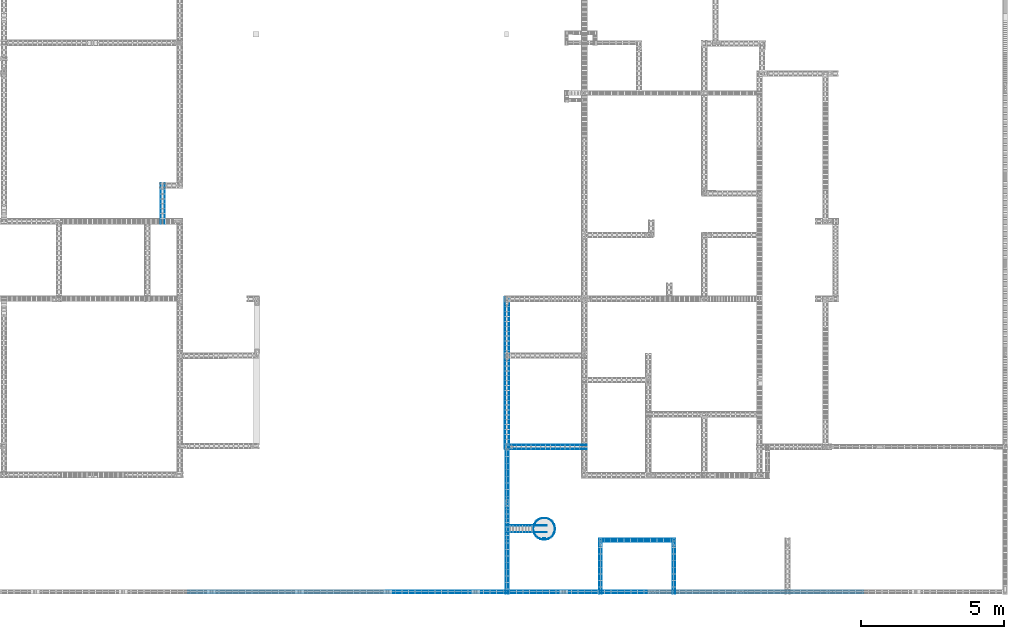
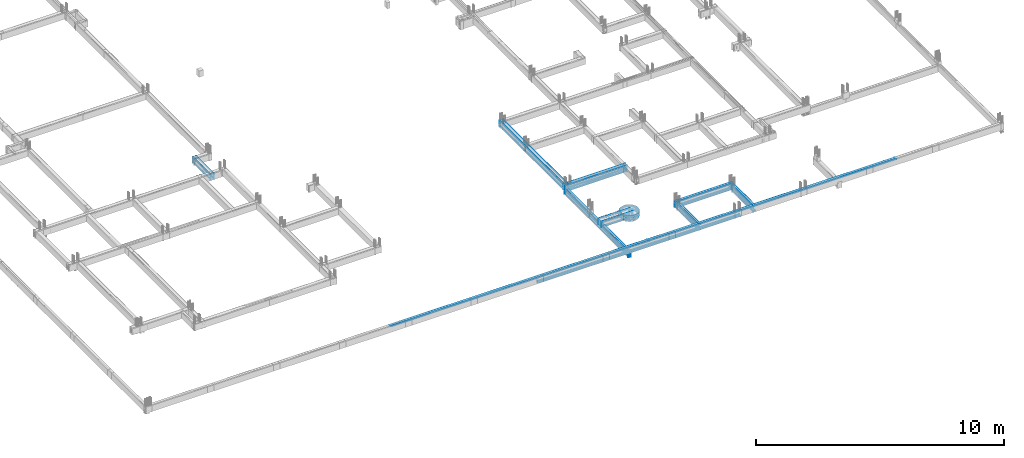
# One storey, part 8 of 150: 40 reinforcing bars.
"""IFC4 building model written with IfcOpenShell, lengths in centimetres."""

from ifc_helpers import new_model, entity, si_unit, derived_unit, frame, origin_with_axes, place, context, project, spatial, source, transform, mapped, element, save


model = new_model("IFC4")

# Units and contexts
model_context = context("Model", 3, precision=1e-05, world=origin_with_axes(), identifier="Body")
ifc_project = project(units=[si_unit("LENGTHUNIT", "METRE", prefix="CENTI"), si_unit("VOLUMEUNIT", "CUBIC_METRE"), si_unit("AREAUNIT", "SQUARE_METRE"), si_unit("POWERUNIT", "WATT"), si_unit("LUMINOUSFLUXUNIT", "LUMEN"), si_unit("ELECTRICCURRENTUNIT", "AMPERE"), si_unit("PRESSUREUNIT", "PASCAL", prefix="KILO"), si_unit("MASSUNIT", "GRAM", prefix="KILO"), si_unit("PLANEANGLEUNIT", "RADIAN"), derived_unit("VOLUMETRICFLOWRATEUNIT", [(si_unit("LENGTHUNIT", "METRE"), 3), (si_unit("TIMEUNIT", "SECOND"), -1)])], contexts=[model_context])

# Site, building, storey
site_placement = place(None, frame((-4000.0, 0.0, 0.0), z_axis=(0.0, 0.0, 1.0), x_axis=(1.0, 0.0, 0.0)))
site = spatial("IfcSite", under=ifc_project, at=site_placement, Name="PADRÃO")
building_placement = place(site_placement, frame((0.0, 0.0, -14.0)))
building = spatial("IfcBuilding", under=site, at=building_placement, Name="CRECHE PRÉ-ESCOLA TIPO 2")
placement = place(building_placement, origin_with_axes())
storey_placement = place(placement, frame((0.0, 0.0, 30.0), z_axis=(0.0, 0.0, 1.0), x_axis=(1.0, 0.0, 0.0)))
storey = spatial("IfcBuildingStorey", under=building, at=storey_placement, Name="VIGA BALDRAME", CompositionType="ELEMENT", Elevation=16.0)

# Reinforcing bars
shared_shape = source(origin_with_axes(), model_context, "Body", "AdvancedSweptSolid", [
    entity("IfcSweptDiskSolid", entity("IfcCompositeCurve", [entity("IfcCompositeCurveSegment", "CONTINUOUS", True, entity("IfcPolyline", [entity("IfcCartesianPoint", [69.8431457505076, -40.5784271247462, 0.0]), entity("IfcCartesianPoint", [74.0857864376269, -36.3357864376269, 0.0])])), entity("IfcCompositeCurveSegment", "CONTINUOUS", True, entity("IfcPolyline", [entity("IfcCartesianPoint", [74.0857864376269, -36.3357864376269, 0.0]), entity("IfcCartesianPoint", [75.5, -37.75, 0.0])])), entity("IfcCompositeCurveSegment", "CONTINUOUS", True, entity("IfcPolyline", [entity("IfcCartesianPoint", [75.5, -37.75, 0.0]), entity("IfcCartesianPoint", [75.2023299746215, -42.4813295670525, 0.01])])), entity("IfcCompositeCurveSegment", "CONTINUOUS", True, entity("IfcPolyline", [entity("IfcCartesianPoint", [75.2023299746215, -42.4813295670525, 0.01]), entity("IfcCartesianPoint", [74.3140143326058, -47.1380432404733, 0.02])])), entity("IfcCompositeCurveSegment", "CONTINUOUS", True, entity("IfcPolyline", [entity("IfcCartesianPoint", [74.3140143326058, -47.1380432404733, 0.02]), entity("IfcCartesianPoint", [72.8490623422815, -51.6467018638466, 0.03])])), entity("IfcCompositeCurveSegment", "CONTINUOUS", True, entity("IfcPolyline", [entity("IfcCartesianPoint", [72.8490623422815, -51.6467018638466, 0.03]), entity("IfcCartesianPoint", [70.8305771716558, -55.9362011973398, 0.04])])), entity("IfcCompositeCurveSegment", "CONTINUOUS", True, entity("IfcPolyline", [entity("IfcCartesianPoint", [70.8305771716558, -55.9362011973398, 0.04]), entity("IfcCartesianPoint", [68.2903915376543, -59.9388932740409, 0.05])])), entity("IfcCompositeCurveSegment", "CONTINUOUS", True, entity("IfcPolyline", [entity("IfcCartesianPoint", [68.2903915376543, -59.9388932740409, 0.05]), entity("IfcCartesianPoint", [65.2685656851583, -63.591653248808, 0.06])])), entity("IfcCompositeCurveSegment", "CONTINUOUS", True, entity("IfcPolyline", [entity("IfcCartesianPoint", [65.2685656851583, -63.591653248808, 0.06]), entity("IfcCartesianPoint", [61.812755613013, -66.836874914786, 0.07])])), entity("IfcCompositeCurveSegment", "CONTINUOUS", True, entity("IfcPolyline", [entity("IfcCartesianPoint", [61.812755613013, -66.836874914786, 0.07]), entity("IfcCartesianPoint", [57.9774615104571, -69.6233791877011, 0.08])])), entity("IfcCompositeCurveSegment", "CONTINUOUS", True, entity("IfcPolyline", [entity("IfcCartesianPoint", [57.9774615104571, -69.6233791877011, 0.08]), entity("IfcCartesianPoint", [53.8231682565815, -71.9072212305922, 0.09])])), entity("IfcCompositeCurveSegment", "CONTINUOUS", True, entity("IfcPolyline", [entity("IfcCartesianPoint", [53.8231682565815, -71.9072212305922, 0.09]), entity("IfcCartesianPoint", [49.4153915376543, -73.652383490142, 0.1])])), entity("IfcCompositeCurveSegment", "CONTINUOUS", True, entity("IfcPolyline", [entity("IfcCartesianPoint", [49.4153915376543, -73.652383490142, 0.1]), entity("IfcCartesianPoint", [44.8236446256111, -74.831343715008, 0.11])])), entity("IfcCompositeCurveSegment", "CONTINUOUS", True, entity("IfcPolyline", [entity("IfcCartesianPoint", [44.8236446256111, -74.831343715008, 0.11]), entity("IfcCartesianPoint", [40.1203421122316, -75.4255089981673, 0.12])])), entity("IfcCompositeCurveSegment", "CONTINUOUS", True, entity("IfcPolyline", [entity("IfcCartesianPoint", [40.1203421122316, -75.4255089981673, 0.12]), entity("IfcCartesianPoint", [35.3796578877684, -75.4255089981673, 0.13])])), entity("IfcCompositeCurveSegment", "CONTINUOUS", True, entity("IfcPolyline", [entity("IfcCartesianPoint", [35.3796578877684, -75.4255089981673, 0.13]), entity("IfcCartesianPoint", [30.6763553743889, -74.831343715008, 0.14])])), entity("IfcCompositeCurveSegment", "CONTINUOUS", True, entity("IfcPolyline", [entity("IfcCartesianPoint", [30.6763553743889, -74.831343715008, 0.14]), entity("IfcCartesianPoint", [26.0846084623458, -73.6523834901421, 0.15])])), entity("IfcCompositeCurveSegment", "CONTINUOUS", True, entity("IfcPolyline", [entity("IfcCartesianPoint", [26.0846084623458, -73.6523834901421, 0.15]), entity("IfcCartesianPoint", [21.6768317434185, -71.9072212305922, 0.16])])), entity("IfcCompositeCurveSegment", "CONTINUOUS", True, entity("IfcPolyline", [entity("IfcCartesianPoint", [21.6768317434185, -71.9072212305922, 0.16]), entity("IfcCartesianPoint", [17.5225384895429, -69.6233791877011, 0.17])])), entity("IfcCompositeCurveSegment", "CONTINUOUS", True, entity("IfcPolyline", [entity("IfcCartesianPoint", [17.5225384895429, -69.6233791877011, 0.17]), entity("IfcCartesianPoint", [13.687244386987, -66.8368749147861, 0.18])])), entity("IfcCompositeCurveSegment", "CONTINUOUS", True, entity("IfcPolyline", [entity("IfcCartesianPoint", [13.687244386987, -66.8368749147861, 0.18]), entity("IfcCartesianPoint", [10.2314343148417, -63.591653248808, 0.19])])), entity("IfcCompositeCurveSegment", "CONTINUOUS", True, entity("IfcPolyline", [entity("IfcCartesianPoint", [10.2314343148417, -63.591653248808, 0.19]), entity("IfcCartesianPoint", [7.20960846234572, -59.9388932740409, 0.2])])), entity("IfcCompositeCurveSegment", "CONTINUOUS", True, entity("IfcPolyline", [entity("IfcCartesianPoint", [7.20960846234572, -59.9388932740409, 0.2]), entity("IfcCartesianPoint", [4.66942282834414, -55.9362011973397, 0.21])])), entity("IfcCompositeCurveSegment", "CONTINUOUS", True, entity("IfcPolyline", [entity("IfcCartesianPoint", [4.66942282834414, -55.9362011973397, 0.21]), entity("IfcCartesianPoint", [2.6509376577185, -51.6467018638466, 0.22])])), entity("IfcCompositeCurveSegment", "CONTINUOUS", True, entity("IfcPolyline", [entity("IfcCartesianPoint", [2.6509376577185, -51.6467018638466, 0.22]), entity("IfcCartesianPoint", [1.18598566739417, -47.1380432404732, 0.23])])), entity("IfcCompositeCurveSegment", "CONTINUOUS", True, entity("IfcPolyline", [entity("IfcCartesianPoint", [1.18598566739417, -47.1380432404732, 0.23]), entity("IfcCartesianPoint", [0.297670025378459, -42.4813295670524, 0.24])])), entity("IfcCompositeCurveSegment", "CONTINUOUS", True, entity("IfcPolyline", [entity("IfcCartesianPoint", [0.297670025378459, -42.4813295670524, 0.24]), entity("IfcCartesianPoint", [0.0, -37.75, 0.25])])), entity("IfcCompositeCurveSegment", "CONTINUOUS", True, entity("IfcPolyline", [entity("IfcCartesianPoint", [0.0, -37.75, 0.25]), entity("IfcCartesianPoint", [0.297670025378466, -33.0186704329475, 0.26])])), entity("IfcCompositeCurveSegment", "CONTINUOUS", True, entity("IfcPolyline", [entity("IfcCartesianPoint", [0.297670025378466, -33.0186704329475, 0.26]), entity("IfcCartesianPoint", [1.18598566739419, -28.3619567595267, 0.27])])), entity("IfcCompositeCurveSegment", "CONTINUOUS", True, entity("IfcPolyline", [entity("IfcCartesianPoint", [1.18598566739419, -28.3619567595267, 0.27]), entity("IfcCartesianPoint", [2.65093765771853, -23.8532981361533, 0.28])])), entity("IfcCompositeCurveSegment", "CONTINUOUS", True, entity("IfcPolyline", [entity("IfcCartesianPoint", [2.65093765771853, -23.8532981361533, 0.28]), entity("IfcCartesianPoint", [4.66942282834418, -19.5637988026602, 0.29])])), entity("IfcCompositeCurveSegment", "CONTINUOUS", True, entity("IfcPolyline", [entity("IfcCartesianPoint", [4.66942282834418, -19.5637988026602, 0.29]), entity("IfcCartesianPoint", [7.20960846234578, -15.5611067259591, 0.3])])), entity("IfcCompositeCurveSegment", "CONTINUOUS", True, entity("IfcPolyline", [entity("IfcCartesianPoint", [7.20960846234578, -15.5611067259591, 0.3]), entity("IfcCartesianPoint", [10.2314343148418, -11.9083467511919, 0.31])])), entity("IfcCompositeCurveSegment", "CONTINUOUS", True, entity("IfcPolyline", [entity("IfcCartesianPoint", [10.2314343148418, -11.9083467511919, 0.31]), entity("IfcCartesianPoint", [13.687244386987, -8.66312508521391, 0.32])])), entity("IfcCompositeCurveSegment", "CONTINUOUS", True, entity("IfcPolyline", [entity("IfcCartesianPoint", [13.687244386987, -8.66312508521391, 0.32]), entity("IfcCartesianPoint", [17.5225384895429, -5.87662081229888, 0.33])])), entity("IfcCompositeCurveSegment", "CONTINUOUS", True, entity("IfcPolyline", [entity("IfcCartesianPoint", [17.5225384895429, -5.87662081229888, 0.33]), entity("IfcCartesianPoint", [21.6768317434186, -3.59277876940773, 0.34])])), entity("IfcCompositeCurveSegment", "CONTINUOUS", True, entity("IfcPolyline", [entity("IfcCartesianPoint", [21.6768317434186, -3.59277876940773, 0.34]), entity("IfcCartesianPoint", [26.0846084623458, -1.84761650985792, 0.35])])), entity("IfcCompositeCurveSegment", "CONTINUOUS", True, entity("IfcPolyline", [entity("IfcCartesianPoint", [26.0846084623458, -1.84761650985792, 0.35]), entity("IfcCartesianPoint", [30.676355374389, -0.668656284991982, 0.36])])), entity("IfcCompositeCurveSegment", "CONTINUOUS", True, entity("IfcPolyline", [entity("IfcCartesianPoint", [30.676355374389, -0.668656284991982, 0.36]), entity("IfcCartesianPoint", [35.3796578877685, -0.07449100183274, 0.37])])), entity("IfcCompositeCurveSegment", "CONTINUOUS", True, entity("IfcPolyline", [entity("IfcCartesianPoint", [35.3796578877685, -0.07449100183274, 0.37]), entity("IfcCartesianPoint", [40.1203421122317, -0.074491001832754, 0.38])])), entity("IfcCompositeCurveSegment", "CONTINUOUS", True, entity("IfcPolyline", [entity("IfcCartesianPoint", [40.1203421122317, -0.074491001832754, 0.38]), entity("IfcCartesianPoint", [44.8236446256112, -0.668656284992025, 0.39])])), entity("IfcCompositeCurveSegment", "CONTINUOUS", True, entity("IfcPolyline", [entity("IfcCartesianPoint", [44.8236446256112, -0.668656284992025, 0.39]), entity("IfcCartesianPoint", [49.4153915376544, -1.84761650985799, 0.4])])), entity("IfcCompositeCurveSegment", "CONTINUOUS", True, entity("IfcPolyline", [entity("IfcCartesianPoint", [49.4153915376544, -1.84761650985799, 0.4]), entity("IfcCartesianPoint", [53.8231682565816, -3.59277876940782, 0.41])])), entity("IfcCompositeCurveSegment", "CONTINUOUS", True, entity("IfcPolyline", [entity("IfcCartesianPoint", [53.8231682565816, -3.59277876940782, 0.41]), entity("IfcCartesianPoint", [57.9774615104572, -5.87662081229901, 0.42])])), entity("IfcCompositeCurveSegment", "CONTINUOUS", True, entity("IfcPolyline", [entity("IfcCartesianPoint", [57.9774615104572, -5.87662081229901, 0.42]), entity("IfcCartesianPoint", [61.8127556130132, -8.66312508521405, 0.43])])), entity("IfcCompositeCurveSegment", "CONTINUOUS", True, entity("IfcPolyline", [entity("IfcCartesianPoint", [61.8127556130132, -8.66312508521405, 0.43]), entity("IfcCartesianPoint", [65.2685656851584, -11.9083467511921, 0.44])])), entity("IfcCompositeCurveSegment", "CONTINUOUS", True, entity("IfcPolyline", [entity("IfcCartesianPoint", [65.2685656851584, -11.9083467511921, 0.44]), entity("IfcCartesianPoint", [68.2903915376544, -15.5611067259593, 0.45])])), entity("IfcCompositeCurveSegment", "CONTINUOUS", True, entity("IfcPolyline", [entity("IfcCartesianPoint", [68.2903915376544, -15.5611067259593, 0.45]), entity("IfcCartesianPoint", [70.8305771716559, -19.5637988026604, 0.46])])), entity("IfcCompositeCurveSegment", "CONTINUOUS", True, entity("IfcPolyline", [entity("IfcCartesianPoint", [70.8305771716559, -19.5637988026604, 0.46]), entity("IfcCartesianPoint", [72.8490623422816, -23.8532981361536, 0.47])])), entity("IfcCompositeCurveSegment", "CONTINUOUS", True, entity("IfcPolyline", [entity("IfcCartesianPoint", [72.8490623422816, -23.8532981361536, 0.47]), entity("IfcCartesianPoint", [74.3140143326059, -28.3619567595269, 0.48])])), entity("IfcCompositeCurveSegment", "CONTINUOUS", True, entity("IfcPolyline", [entity("IfcCartesianPoint", [74.3140143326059, -28.3619567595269, 0.48]), entity("IfcCartesianPoint", [75.2023299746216, -33.0186704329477, 0.49])])), entity("IfcCompositeCurveSegment", "CONTINUOUS", True, entity("IfcPolyline", [entity("IfcCartesianPoint", [75.2023299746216, -33.0186704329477, 0.49]), entity("IfcCartesianPoint", [75.5, -37.75, 0.5])])), entity("IfcCompositeCurveSegment", "CONTINUOUS", True, entity("IfcPolyline", [entity("IfcCartesianPoint", [75.5, -37.75, 0.5]), entity("IfcCartesianPoint", [74.0857864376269, -39.1642135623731, 0.5])])), entity("IfcCompositeCurveSegment", "CONTINUOUS", True, entity("IfcPolyline", [entity("IfcCartesianPoint", [74.0857864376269, -39.1642135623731, 0.5]), entity("IfcCartesianPoint", [69.8431457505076, -34.9215728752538, 0.5])]))], False), 0.25),
])
for number, where, z_axis, x_axis, name in (
    (1, (2423.03, 267.14, -7.5), (0.0, 0.0, 1.0), (0.0, -1.0, 0.0), "P151 - Estribo"),
    (2, (2423.03, 267.14, -22.5), (0.0, 0.0, 1.0), (0.0, -1.0, 0.0), "P151 - Estribo"),
):
    element("IfcReinforcingBar", number, at=place(storey_placement, frame(where, z_axis=z_axis, x_axis=x_axis)), inside=storey, Name=name, BarLength=0.0, CrossSectionArea=1.9634954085e-05, NominalDiameter=0.5, PredefinedType="MAIN", context=model_context, shape_type="MappedRepresentation", body=[
        mapped(shared_shape, transform((0.0, 0.0, 0.0), scale=1.0)),
    ])
for number, where, z_axis, x_axis, name in (
    (3, (2391.74, 507.92, -26.7), (0.0, 0.0, 1.0), (1.0, 0.0, 0.0), "V151 - Longitudinal inferior"),
    (4, (2391.74, 522.12, -26.7), (0.0, 0.0, 1.0), (1.0, 0.0, 0.0), "V151 - Longitudinal inferior"),
):
    element("IfcReinforcingBar", number, at=place(storey_placement, frame(where, z_axis=z_axis, x_axis=x_axis)), inside=storey, Name=name, BarLength=0.0, CrossSectionArea=5.0265482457e-05, NominalDiameter=0.8, PredefinedType="MAIN", context=model_context, shape_type="AdvancedSweptSolid", body=[
        entity("IfcSweptDiskSolid", entity("IfcCompositeCurve", [entity("IfcCompositeCurveSegment", "CONTINUOUS", True, entity("IfcPolyline", [entity("IfcCartesianPoint", [-142.26, 0.0, -0.4]), entity("IfcCartesianPoint", [142.26, 0.0, -0.4])]))], False), 0.4),
    ])
for number, where, z_axis, x_axis, name in (
    (5, (2391.74, 508.02, -2.49531217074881), (0.0, 0.0, 1.0), (1.0, 0.0, 0.0), "V151 - Longitudinal superior"),
    (6, (2391.74, 522.02, -2.49531217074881), (0.0, 0.0, 1.0), (1.0, 0.0, 0.0), "V151 - Longitudinal superior"),
):
    element("IfcReinforcingBar", number, at=place(storey_placement, frame(where, z_axis=z_axis, x_axis=x_axis)), inside=storey, Name=name, BarLength=0.0, CrossSectionArea=7.853981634e-05, NominalDiameter=1.0, PredefinedType="MAIN", context=model_context, shape_type="AdvancedSweptSolid", body=[
        entity("IfcSweptDiskSolid", entity("IfcCompositeCurve", [entity("IfcCompositeCurveSegment", "CONTINUOUS", True, entity("IfcPolyline", [entity("IfcCartesianPoint", [-141.76, 0.0, -10.5046878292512]), entity("IfcCartesianPoint", [-141.76, 0.0, -0.504687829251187])])), entity("IfcCompositeCurveSegment", "CONTINUOUS", True, entity("IfcPolyline", [entity("IfcCartesianPoint", [-141.76, 0.0, -0.504687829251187]), entity("IfcCartesianPoint", [141.76, 0.0, -0.504687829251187])])), entity("IfcCompositeCurveSegment", "CONTINUOUS", True, entity("IfcPolyline", [entity("IfcCartesianPoint", [141.76, 0.0, -0.504687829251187]), entity("IfcCartesianPoint", [141.76, 0.0, -26.5046878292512])]))], False), 0.5),
    ])
for number, where, z_axis, x_axis, name in (
    (7, (2321.88, 241.39, -26.5), (0.0, 0.0, 1.0), (1.0, 0.0, 0.0), "V156 - Longitudinal inferior"),
    (8, (2321.88, 217.39, -26.5), (0.0, 0.0, 1.0), (1.0, 0.0, 0.0), "V156 - Longitudinal inferior"),
):
    element("IfcReinforcingBar", number, at=place(storey_placement, frame(where, z_axis=z_axis, x_axis=x_axis)), inside=storey, Name=name, BarLength=0.0, CrossSectionArea=7.853981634e-05, NominalDiameter=1.0, PredefinedType="MAIN", context=model_context, shape_type="AdvancedSweptSolid", body=[
        entity("IfcSweptDiskSolid", entity("IfcCompositeCurve", [entity("IfcCompositeCurveSegment", "CONTINUOUS", True, entity("IfcPolyline", [entity("IfcCartesianPoint", [-71.4, 0.0, -0.5]), entity("IfcCartesianPoint", [71.4, 0.0, -0.5])]))], False), 0.5),
    ])
for number, where, z_axis, x_axis, name in (
    (9, (2321.88, 217.39, -2.49531217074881), (0.0, 0.0, 1.0), (1.0, 0.0, 0.0), "V156 - Longitudinal superior"),
    (10, (2321.88, 241.39, -2.49531217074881), (0.0, 0.0, 1.0), (1.0, 0.0, 0.0), "V156 - Longitudinal superior"),
):
    element("IfcReinforcingBar", number, at=place(storey_placement, frame(where, z_axis=z_axis, x_axis=x_axis)), inside=storey, Name=name, BarLength=0.0, CrossSectionArea=7.853981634e-05, NominalDiameter=1.0, PredefinedType="MAIN", context=model_context, shape_type="AdvancedSweptSolid", body=[
        entity("IfcSweptDiskSolid", entity("IfcCompositeCurve", [entity("IfcCompositeCurveSegment", "CONTINUOUS", True, entity("IfcPolyline", [entity("IfcCartesianPoint", [-70.9, 0.0, -26.5046878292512]), entity("IfcCartesianPoint", [-70.9, 0.0, -0.504687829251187])])), entity("IfcCompositeCurveSegment", "CONTINUOUS", True, entity("IfcPolyline", [entity("IfcCartesianPoint", [-70.9, 0.0, -0.504687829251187]), entity("IfcCartesianPoint", [70.9, 0.0, -0.504687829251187])])), entity("IfcCompositeCurveSegment", "CONTINUOUS", True, entity("IfcPolyline", [entity("IfcCartesianPoint", [70.9, 0.0, -0.504687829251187]), entity("IfcCartesianPoint", [70.9, 0.0, -29.1731755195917])]))], False), 0.5),
    ])
for number, where, z_axis, x_axis, name in (
    (11, (2709.475, 194.6, -17.1), (0.0, 0.0, 1.0), (1.0, 0.0, 0.0), "V157 - Longitudinal inferior"),
    (12, (2709.475, 185.4, -17.1), (0.0, 0.0, 1.0), (1.0, 0.0, 0.0), "V157 - Longitudinal inferior"),
):
    element("IfcReinforcingBar", number, at=place(storey_placement, frame(where, z_axis=z_axis, x_axis=x_axis)), inside=storey, Name=name, BarLength=0.0, CrossSectionArea=5.0265482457e-05, NominalDiameter=0.8, PredefinedType="MAIN", context=model_context, shape_type="AdvancedSweptSolid", body=[
        entity("IfcSweptDiskSolid", entity("IfcCompositeCurve", [entity("IfcCompositeCurveSegment", "CONTINUOUS", True, entity("IfcPolyline", [entity("IfcCartesianPoint", [-132.615, 0.0, 0.0]), entity("IfcCartesianPoint", [-132.615, 0.0, -10.0])])), entity("IfcCompositeCurveSegment", "CONTINUOUS", True, entity("IfcPolyline", [entity("IfcCartesianPoint", [-132.615, 0.0, -10.0]), entity("IfcCartesianPoint", [132.615, 0.0, -10.0])])), entity("IfcCompositeCurveSegment", "CONTINUOUS", True, entity("IfcPolyline", [entity("IfcCartesianPoint", [132.615, 0.0, -10.0]), entity("IfcCartesianPoint", [132.615, 0.0, 0.0])]))], False), 0.4),
    ])
for number, where, z_axis, x_axis, name in (
    (13, (2709.475, 185.4, -2.49624973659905), (0.0, 0.0, 1.0), (1.0, 0.0, 0.0), "V157 - Longitudinal superior"),
    (14, (2709.475, 194.6, -2.49624973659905), (0.0, 0.0, 1.0), (1.0, 0.0, 0.0), "V157 - Longitudinal superior"),
):
    element("IfcReinforcingBar", number, at=place(storey_placement, frame(where, z_axis=z_axis, x_axis=x_axis)), inside=storey, Name=name, BarLength=0.0, CrossSectionArea=5.0265482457e-05, NominalDiameter=0.8, PredefinedType="MAIN", context=model_context, shape_type="AdvancedSweptSolid", body=[
        entity("IfcSweptDiskSolid", entity("IfcCompositeCurve", [entity("IfcCompositeCurveSegment", "CONTINUOUS", True, entity("IfcPolyline", [entity("IfcCartesianPoint", [-132.615, 0.0, -18.3215550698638]), entity("IfcCartesianPoint", [-132.615, 0.0, -0.403750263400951])])), entity("IfcCompositeCurveSegment", "CONTINUOUS", True, entity("IfcPolyline", [entity("IfcCartesianPoint", [-132.615, 0.0, -0.403750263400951]), entity("IfcCartesianPoint", [132.615, 0.0, -0.403750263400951])])), entity("IfcCompositeCurveSegment", "CONTINUOUS", True, entity("IfcPolyline", [entity("IfcCartesianPoint", [132.615, 0.0, -0.403750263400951]), entity("IfcCartesianPoint", [132.615, 0.0, -18.3215550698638])]))], False), 0.4),
    ])
for number, where, z_axis, x_axis, name in (
    (15, (2303.34292004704, 14.1, -26.7), (0.0, 0.0, 1.0), (1.0, 0.0, 0.0), "V158 - Longitudinal inferior"),
    (16, (2303.34292004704, 4.9, -26.7), (0.0, 0.0, 1.0), (1.0, 0.0, 0.0), "V158 - Longitudinal inferior"),
):
    element("IfcReinforcingBar", number, at=place(storey_placement, frame(where, z_axis=z_axis, x_axis=x_axis)), inside=storey, Name=name, BarLength=0.0, CrossSectionArea=5.0265482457e-05, NominalDiameter=0.8, PredefinedType="MAIN", context=model_context, shape_type="AdvancedSweptSolid", body=[
        entity("IfcSweptDiskSolid", entity("IfcCompositeCurve", [entity("IfcCompositeCurveSegment", "CONTINUOUS", True, entity("IfcPolyline", [entity("IfcCartesianPoint", [-468.842920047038, 0.0, -0.4]), entity("IfcCartesianPoint", [468.842920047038, 0.0, -0.4])]))], False), 0.4),
    ])
for number, where, z_axis, x_axis, name in (
    (17, (1745.5, 14.1, -2.5), (0.0, 0.0, 1.0), (1.0, 0.0, 0.0), "V158 - Longitudinal superior"),
    (18, (1745.5, 4.9, -2.5), (0.0, 0.0, 1.0), (1.0, 0.0, 0.0), "V158 - Longitudinal superior"),
    (19, (2897.5, 14.1, -2.5), (0.0, 0.0, 1.0), (1.0, 0.0, 0.0), "V158 - Longitudinal superior"),
    (20, (2897.5, 4.9, -2.5), (0.0, 0.0, 1.0), (1.0, 0.0, 0.0), "V158 - Longitudinal superior"),
):
    element("IfcReinforcingBar", number, at=place(storey_placement, frame(where, z_axis=z_axis, x_axis=x_axis)), inside=storey, Name=name, BarLength=0.0, CrossSectionArea=5.0265482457e-05, NominalDiameter=0.8, PredefinedType="MAIN", context=model_context, shape_type="AdvancedSweptSolid", body=[
        entity("IfcSweptDiskSolid", entity("IfcCompositeCurve", [entity("IfcCompositeCurveSegment", "CONTINUOUS", True, entity("IfcPolyline", [entity("IfcCartesianPoint", [-600.0, 0.0, -0.4]), entity("IfcCartesianPoint", [600.0, 0.0, -0.4])]))], False), 0.4),
    ])
for number, where, z_axis, x_axis, name in (
    (21, (1048.9, 1362.5, -26.7), (0.0, 0.0, 1.0), (1.0, 0.0, 0.0), "V180 - Longitudinal inferior"),
    (22, (1063.1, 1362.5, -26.7), (0.0, 0.0, 1.0), (1.0, 0.0, 0.0), "V180 - Longitudinal inferior"),
):
    element("IfcReinforcingBar", number, at=place(storey_placement, frame(where, z_axis=z_axis, x_axis=x_axis)), inside=storey, Name=name, BarLength=0.0, CrossSectionArea=5.0265482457e-05, NominalDiameter=0.8, PredefinedType="MAIN", context=model_context, shape_type="AdvancedSweptSolid", body=[
        entity("IfcSweptDiskSolid", entity("IfcCompositeCurve", [entity("IfcCompositeCurveSegment", "CONTINUOUS", True, entity("IfcPolyline", [entity("IfcCartesianPoint", [0.0, -70.5, -0.4]), entity("IfcCartesianPoint", [0.0, 70.5, -0.4])]))], False), 0.4),
    ])
for number, where, z_axis, x_axis, name in (
    (23, (1048.9, 1362.5, -2.49624973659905), (0.0, 0.0, 1.0), (1.0, 0.0, 0.0), "V180 - Longitudinal superior"),
    (24, (1063.1, 1362.5, -2.49624973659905), (0.0, 0.0, 1.0), (1.0, 0.0, 0.0), "V180 - Longitudinal superior"),
):
    element("IfcReinforcingBar", number, at=place(storey_placement, frame(where, z_axis=z_axis, x_axis=x_axis)), inside=storey, Name=name, BarLength=0.0, CrossSectionArea=5.0265482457e-05, NominalDiameter=0.8, PredefinedType="MAIN", context=model_context, shape_type="AdvancedSweptSolid", body=[
        entity("IfcSweptDiskSolid", entity("IfcCompositeCurve", [entity("IfcCompositeCurveSegment", "CONTINUOUS", True, entity("IfcPolyline", [entity("IfcCartesianPoint", [0.0, -70.1, -24.2941566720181]), entity("IfcCartesianPoint", [0.0, -70.1, -0.403750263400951])])), entity("IfcCompositeCurveSegment", "CONTINUOUS", True, entity("IfcPolyline", [entity("IfcCartesianPoint", [0.0, -70.1, -0.403750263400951]), entity("IfcCartesianPoint", [0.0, 70.1, -0.403750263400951])])), entity("IfcCompositeCurveSegment", "CONTINUOUS", True, entity("IfcPolyline", [entity("IfcCartesianPoint", [0.0, 70.1, -0.403750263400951]), entity("IfcCartesianPoint", [0.0, 70.1, -24.2941566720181])]))], False), 0.4),
    ])
for number, where, z_axis, x_axis, name in (
    (25, (2260.58, 261.26, -46.7), (0.0, 0.0, 1.0), (1.0, 0.0, 0.0), "V189 - Longitudinal inferior"),
    (26, (2251.38, 261.26, -46.7), (0.0, 0.0, 1.0), (1.0, 0.0, 0.0), "V189 - Longitudinal inferior"),
):
    element("IfcReinforcingBar", number, at=place(storey_placement, frame(where, z_axis=z_axis, x_axis=x_axis)), inside=storey, Name=name, BarLength=0.0, CrossSectionArea=5.0265482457e-05, NominalDiameter=0.8, PredefinedType="MAIN", context=model_context, shape_type="AdvancedSweptSolid", body=[
        entity("IfcSweptDiskSolid", entity("IfcCompositeCurve", [entity("IfcCompositeCurveSegment", "CONTINUOUS", True, entity("IfcPolyline", [entity("IfcCartesianPoint", [0.0, -257.26, -0.4]), entity("IfcCartesianPoint", [0.0, 257.26, -0.4])]))], False), 0.4),
    ])
for number, where, z_axis, x_axis, name in (
    (27, (2251.38, 261.26, -22.496249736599), (0.0, 0.0, 1.0), (1.0, 0.0, 0.0), "V189 - Longitudinal superior"),
    (28, (2260.58, 261.26, -22.496249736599), (0.0, 0.0, 1.0), (1.0, 0.0, 0.0), "V189 - Longitudinal superior"),
):
    element("IfcReinforcingBar", number, at=place(storey_placement, frame(where, z_axis=z_axis, x_axis=x_axis)), inside=storey, Name=name, BarLength=0.0, CrossSectionArea=5.0265482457e-05, NominalDiameter=0.8, PredefinedType="MAIN", context=model_context, shape_type="AdvancedSweptSolid", body=[
        entity("IfcSweptDiskSolid", entity("IfcCompositeCurve", [entity("IfcCompositeCurveSegment", "CONTINUOUS", True, entity("IfcPolyline", [entity("IfcCartesianPoint", [0.0, -256.86, -26.403750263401]), entity("IfcCartesianPoint", [0.0, -256.86, -0.403750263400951])])), entity("IfcCompositeCurveSegment", "CONTINUOUS", True, entity("IfcPolyline", [entity("IfcCartesianPoint", [0.0, -256.86, -0.403750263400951]), entity("IfcCartesianPoint", [0.0, 256.86, -0.403750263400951])])), entity("IfcCompositeCurveSegment", "CONTINUOUS", True, entity("IfcPolyline", [entity("IfcCartesianPoint", [0.0, 256.86, -0.403750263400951]), entity("IfcCartesianPoint", [0.0, 256.86, -18.3215550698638])]))], False), 0.4),
    ])
reinforcing_bar_1_placement = place(storey_placement, frame((2262.98848467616, 772.514781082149, -26.5), z_axis=(0.0, 0.0, 1.0), x_axis=(1.0, 0.0, 0.0)))
element("IfcReinforcingBar", 29, at=reinforcing_bar_1_placement, inside=storey, Name="V190 - Longitudinal inferior", BarLength=0.0, CrossSectionArea=7.853981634e-05, NominalDiameter=1.0, PredefinedType="MAIN", context=model_context, shape_type="AdvancedSweptSolid", body=[
    entity("IfcSweptDiskSolid", entity("IfcCompositeCurve", [entity("IfcCompositeCurveSegment", "CONTINUOUS", True, entity("IfcPolyline", [entity("IfcCartesianPoint", [-0.008888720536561, -263.995016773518, -0.5]), entity("IfcCartesianPoint", [0.008888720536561, 263.994983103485, -0.5])]))], False), 0.5),
])
reinforcing_bar_2_placement = place(storey_placement, frame((2248.9884846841, 772.51525246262, -26.5), z_axis=(0.0, 0.0, 1.0), x_axis=(1.0, 0.0, 0.0)))
element("IfcReinforcingBar", 30, at=reinforcing_bar_2_placement, inside=storey, Name="V190 - Longitudinal inferior", BarLength=0.0, CrossSectionArea=7.853981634e-05, NominalDiameter=1.0, PredefinedType="MAIN", context=model_context, shape_type="AdvancedSweptSolid", body=[
    entity("IfcSweptDiskSolid", entity("IfcCompositeCurve", [entity("IfcCompositeCurveSegment", "CONTINUOUS", True, entity("IfcPolyline", [entity("IfcCartesianPoint", [-0.008888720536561, -263.995016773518, -0.5]), entity("IfcCartesianPoint", [0.008888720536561, 263.994983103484, -0.5])]))], False), 0.5),
])
for number, where, z_axis, x_axis, name in (
    (31, (2248.88848468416, 772.515238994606, -2.49624973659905), (0.0, 0.0, 1.0), (1.0, 0.0, 0.0), "V190 - Longitudinal superior"),
    (32, (2263.08848467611, 772.514760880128, -2.49624973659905), (0.0, 0.0, 1.0), (1.0, 0.0, 0.0), "V190 - Longitudinal superior"),
):
    element("IfcReinforcingBar", number, at=place(storey_placement, frame(where, z_axis=z_axis, x_axis=x_axis)), inside=storey, Name=name, BarLength=0.0, CrossSectionArea=5.0265482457e-05, NominalDiameter=0.8, PredefinedType="MAIN", context=model_context, shape_type="AdvancedSweptSolid", body=[
        entity("IfcSweptDiskSolid", entity("IfcCompositeCurve", [entity("IfcCompositeCurveSegment", "CONTINUOUS", True, entity("IfcPolyline", [entity("IfcCartesianPoint", [-0.008875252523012, -263.595, -24.2941566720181]), entity("IfcCartesianPoint", [-0.008875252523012, -263.595, -0.403750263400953])])), entity("IfcCompositeCurveSegment", "CONTINUOUS", True, entity("IfcPolyline", [entity("IfcCartesianPoint", [-0.008875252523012, -263.595, -0.403750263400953]), entity("IfcCartesianPoint", [0.008875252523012, 263.595, -0.403750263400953])])), entity("IfcCompositeCurveSegment", "CONTINUOUS", True, entity("IfcPolyline", [entity("IfcCartesianPoint", [0.008875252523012, 263.595, -0.403750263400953]), entity("IfcCartesianPoint", [0.008875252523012, 263.595, -10.403750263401])]))], False), 0.4),
    ])
for number, where, z_axis, x_axis, name in (
    (33, (2586.06, 99.7518751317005, -9.18219519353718), (0.0, 0.0, 1.0), (1.0, 0.0, 0.0), "V201 - Longitudinal inferior"),
    (34, (2576.86, 99.7518751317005, -9.18219519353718), (0.0, 0.0, 1.0), (1.0, 0.0, 0.0), "V201 - Longitudinal inferior"),
):
    element("IfcReinforcingBar", number, at=place(storey_placement, frame(where, z_axis=z_axis, x_axis=x_axis)), inside=storey, Name=name, BarLength=0.0, CrossSectionArea=5.0265482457e-05, NominalDiameter=0.8, PredefinedType="MAIN", context=model_context, shape_type="AdvancedSweptSolid", body=[
        entity("IfcSweptDiskSolid", entity("IfcCompositeCurve", [entity("IfcCompositeCurveSegment", "CONTINUOUS", True, entity("IfcPolyline", [entity("IfcCartesianPoint", [0.0, -95.7518751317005, -17.9178048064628]), entity("IfcCartesianPoint", [0.0, 95.3481248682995, -17.9178048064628])])), entity("IfcCompositeCurveSegment", "CONTINUOUS", True, entity("IfcPolyline", [entity("IfcCartesianPoint", [0.0, 95.3481248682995, -17.9178048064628]), entity("IfcCartesianPoint", [0.0, 95.3481248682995, 0.0])]))], False), 0.4),
    ])
for number, where, z_axis, x_axis, name in (
    (35, (2586.06, 99.75, -2.5), (0.0, 0.0, 1.0), (1.0, 0.0, 0.0), "V201 - Longitudinal superior"),
    (36, (2576.86, 99.75, -2.5), (0.0, 0.0, 1.0), (1.0, 0.0, 0.0), "V201 - Longitudinal superior"),
):
    element("IfcReinforcingBar", number, at=place(storey_placement, frame(where, z_axis=z_axis, x_axis=x_axis)), inside=storey, Name=name, BarLength=0.0, CrossSectionArea=5.0265482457e-05, NominalDiameter=0.8, PredefinedType="MAIN", context=model_context, shape_type="AdvancedSweptSolid", body=[
        entity("IfcSweptDiskSolid", entity("IfcCompositeCurve", [entity("IfcCompositeCurveSegment", "CONTINUOUS", True, entity("IfcPolyline", [entity("IfcCartesianPoint", [0.0, -95.75, -0.4]), entity("IfcCartesianPoint", [0.0, 95.75, -0.4])]))], False), 0.4),
    ])
for number, where, z_axis, x_axis, name in (
    (37, (2842.09, 99.7518751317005, -9.18219519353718), (0.0, 0.0, 1.0), (1.0, 0.0, 0.0), "V206 - Longitudinal inferior"),
    (38, (2832.89, 99.7518751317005, -9.18219519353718), (0.0, 0.0, 1.0), (1.0, 0.0, 0.0), "V206 - Longitudinal inferior"),
):
    element("IfcReinforcingBar", number, at=place(storey_placement, frame(where, z_axis=z_axis, x_axis=x_axis)), inside=storey, Name=name, BarLength=0.0, CrossSectionArea=5.0265482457e-05, NominalDiameter=0.8, PredefinedType="MAIN", context=model_context, shape_type="AdvancedSweptSolid", body=[
        entity("IfcSweptDiskSolid", entity("IfcCompositeCurve", [entity("IfcCompositeCurveSegment", "CONTINUOUS", True, entity("IfcPolyline", [entity("IfcCartesianPoint", [0.0, -95.7518751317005, -17.9178048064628]), entity("IfcCartesianPoint", [0.0, 95.3481248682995, -17.9178048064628])])), entity("IfcCompositeCurveSegment", "CONTINUOUS", True, entity("IfcPolyline", [entity("IfcCartesianPoint", [0.0, 95.3481248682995, -17.9178048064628]), entity("IfcCartesianPoint", [0.0, 95.3481248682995, 0.0])]))], False), 0.4),
    ])
for number, where, z_axis, x_axis, name in (
    (39, (2832.89, 99.75, -2.5), (0.0, 0.0, 1.0), (1.0, 0.0, 0.0), "V206 - Longitudinal superior"),
    (40, (2842.09, 99.75, -2.5), (0.0, 0.0, 1.0), (1.0, 0.0, 0.0), "V206 - Longitudinal superior"),
):
    element("IfcReinforcingBar", number, at=place(storey_placement, frame(where, z_axis=z_axis, x_axis=x_axis)), inside=storey, Name=name, BarLength=0.0, CrossSectionArea=5.0265482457e-05, NominalDiameter=0.8, PredefinedType="MAIN", context=model_context, shape_type="AdvancedSweptSolid", body=[
        entity("IfcSweptDiskSolid", entity("IfcCompositeCurve", [entity("IfcCompositeCurveSegment", "CONTINUOUS", True, entity("IfcPolyline", [entity("IfcCartesianPoint", [0.0, -95.75, -0.4]), entity("IfcCartesianPoint", [0.0, 95.75, -0.4])]))], False), 0.4),
    ])

save(model, "model.ifc")
